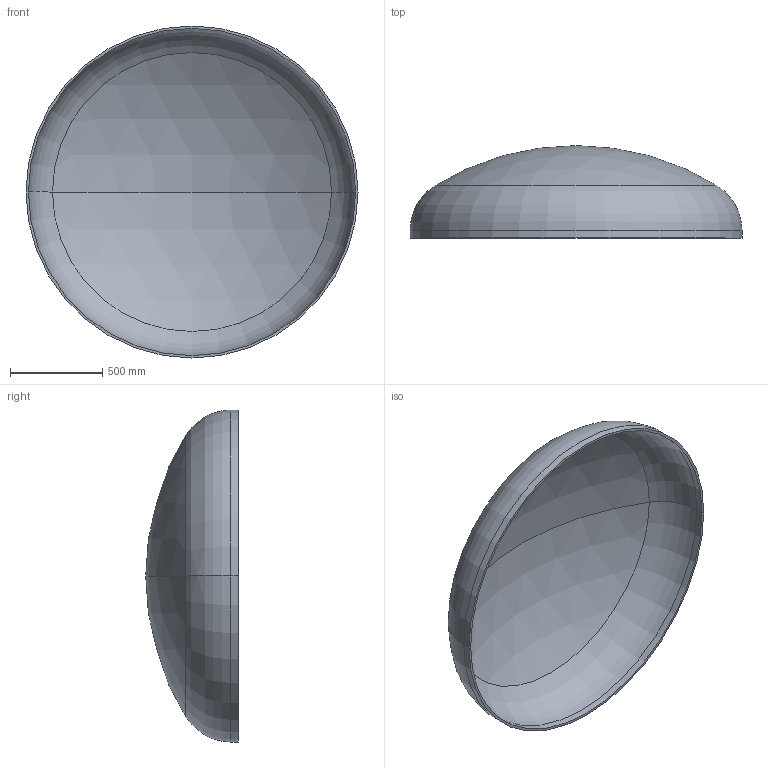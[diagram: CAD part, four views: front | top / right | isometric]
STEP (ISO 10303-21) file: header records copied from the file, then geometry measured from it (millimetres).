
FILE_DESCRIPTION (( 'STEP AP203' ), '1' );
FILE_NAME ('DIN 28013 Korbbogenform_-_Boden DIN 28013 - 1800 x 40 - I - s=13.step', '2016-07-01T12:17:31', ( '' ), ( '' ), 'SwSTEP 2.0', 'SolidWorks 2013', '' );
FILE_SCHEMA (( 'CONFIG_CONTROL_DESIGN' ));
Length unit declared in the file: millimetre
Products named in the file (1): DIN 28013 Korbbogenform_-_Boden DIN 28013 - 1800 x 40 - I - s=13
Bounding box: 1800 x 501.7 x 1800 mm (x, y, z)
Volume: 48230653.4 mm3; surface area: 7493433.9 mm2
Topology: 1 solids, 1 shells, 13 faces, 24 edges, 14 vertices
Faces by surface type: torus 4, cylinder 4, sphere 4, plane 1
Entity records: 407 total; most frequent: DIRECTION 72, CARTESIAN_POINT 52, ORIENTED_EDGE 48, AXIS2_PLACEMENT_3D 34, EDGE_CURVE 24, CIRCLE 20, EDGE_LOOP 14, VERTEX_POINT 14
